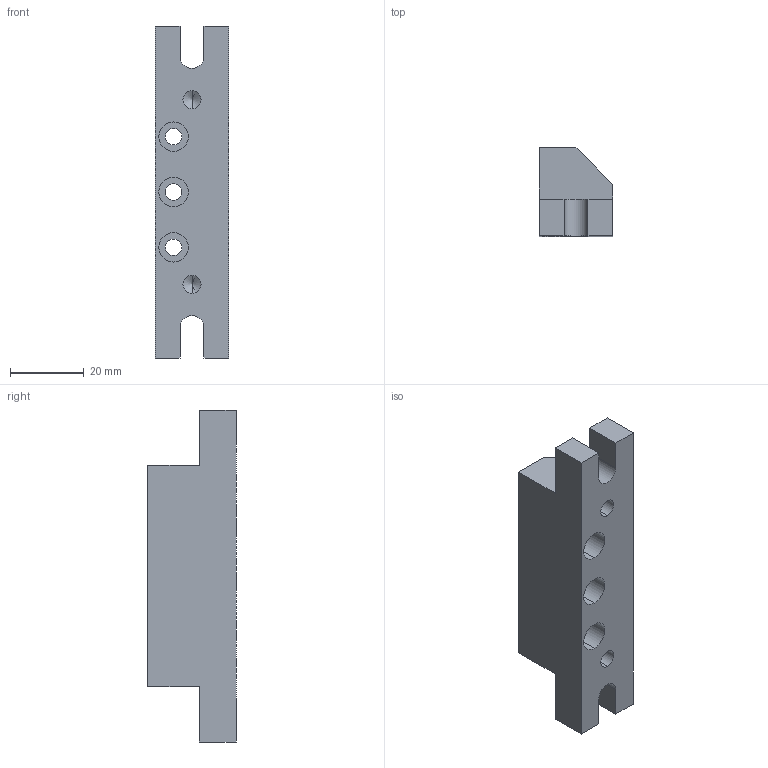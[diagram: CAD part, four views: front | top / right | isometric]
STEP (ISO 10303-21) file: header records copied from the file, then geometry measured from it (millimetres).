
FILE_DESCRIPTION (( 'STEP AP203' ), '1' );
FILE_NAME ('4SCML-8.13.STEP', '2010-02-22T09:46:11', ( 'Darius' ), ( '' ), 'SwSTEP 2.0', 'SolidWorks 2003240', '' );
FILE_SCHEMA (( 'CONFIG_CONTROL_DESIGN' ));
Length unit declared in the file: millimetre
Products named in the file (1): 4SCML-8.13
Bounding box: 20 x 24 x 90 mm (x, y, z)
Volume: 27425.2 mm3; surface area: 9499.9 mm2
Topology: 1 solids, 1 shells, 43 faces, 110 edges, 70 vertices
Faces by surface type: plane 20, cylinder 19, cone 4
Entity records: 1371 total; most frequent: DIRECTION 232, CARTESIAN_POINT 220, ORIENTED_EDGE 212, EDGE_CURVE 106, AXIS2_PLACEMENT_3D 82, VERTEX_POINT 70, VECTOR 68, LINE 68
